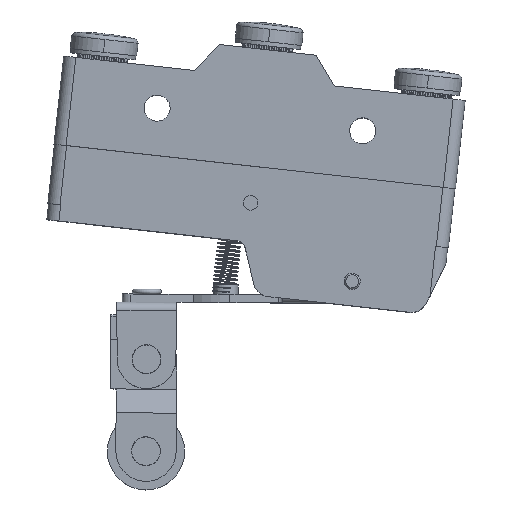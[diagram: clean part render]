
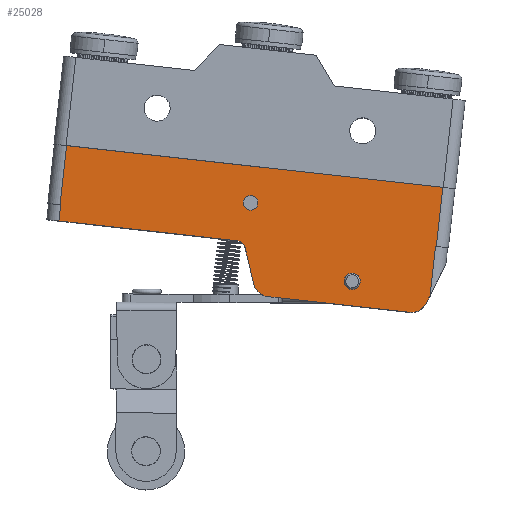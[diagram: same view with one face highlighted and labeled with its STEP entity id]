
A CAD part, top view. The second image highlights one B-rep face of the part: STEP entity #25028.
In plain terms, the highlighted planar face has unit normal (0, 0, 1).
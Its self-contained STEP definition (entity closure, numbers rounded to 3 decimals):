
#7971=CARTESIAN_POINT('',(101.775,-44.107,
-7.793));
#7972=DIRECTION('',(0.,0.,1.));
#7973=DIRECTION('',(-0.11,-0.994,0.));
#7974=AXIS2_PLACEMENT_3D('',#7971,#7972,#7973);
#7976=CARTESIAN_POINT('',(101.775,-44.107,
-7.793));
#7977=DIRECTION('',(0.,0.,1.));
#7978=DIRECTION('',(0.11,0.994,0.));
#7979=AXIS2_PLACEMENT_3D('',#7976,#7977,#7978);
#7981=CARTESIAN_POINT('',(89.31,-34.476,
-7.793));
#7982=DIRECTION('',(0.,0.,1.));
#7983=DIRECTION('',(-0.994,0.11,0.));
#7984=AXIS2_PLACEMENT_3D('',#7981,#7982,#7983);
#7986=CARTESIAN_POINT('',(89.31,-34.476,
-7.793));
#7987=DIRECTION('',(0.,0.,1.));
#7988=DIRECTION('',(0.994,-0.11,0.));
#7989=AXIS2_PLACEMENT_3D('',#7986,#7987,#7988);
#7991=CARTESIAN_POINT('',(112.055,-39.813,
-7.793));
#7992=CARTESIAN_POINT('',(112.048,-39.812,
-7.793));
#7993=CARTESIAN_POINT('',(112.033,-39.81,
-7.793));
#7994=CARTESIAN_POINT('',(112.018,-39.808,
-7.793));
#7995=CARTESIAN_POINT('',(112.011,-39.808,
-7.793));
#7997=DIRECTION('',(-0.11,-0.994,0.));
#7998=VECTOR('',#7997,6.121);
#7999=CARTESIAN_POINT('',(112.011,-39.808,
-7.793));
#8000=LINE('',#7999,#7998);
#8001=DIRECTION('',(-0.443,-0.896,0.));
#8002=VECTOR('',#8001,1.025);
#8003=CARTESIAN_POINT('',(111.337,-45.892,
-7.793));
#8004=LINE('',#8003,#8002);
#8005=CARTESIAN_POINT('',(109.09,-45.923,
-7.793));
#8006=DIRECTION('',(0.,0.,-1.));
#8007=DIRECTION('',(0.896,-0.443,0.));
#8008=AXIS2_PLACEMENT_3D('',#8005,#8006,#8007);
#8010=CARTESIAN_POINT('',(91.656,-43.992,
-7.793));
#8011=DIRECTION('',(0.,0.,-1.));
#8012=DIRECTION('',(-0.11,-0.994,0.));
#8013=AXIS2_PLACEMENT_3D('',#8010,#8011,#8012);
#8015=DIRECTION('',(-0.236,0.972,0.));
#8016=VECTOR('',#8015,4.71);
#8017=CARTESIAN_POINT('',(89.713,-44.465,
-7.793));
#8018=LINE('',#8017,#8016);
#8019=CARTESIAN_POINT('',(87.627,-40.125,
-7.793));
#8020=DIRECTION('',(0.,0.,1.));
#8021=DIRECTION('',(0.972,0.236,0.));
#8022=AXIS2_PLACEMENT_3D('',#8019,#8020,#8021);
#8024=DIRECTION('',(-0.994,0.11,0.));
#8025=VECTOR('',#8024,22.1);
#8026=CARTESIAN_POINT('',(87.737,-39.131,
-7.793));
#8027=LINE('',#8026,#8025);
#8028=CARTESIAN_POINT('',(65.992,-34.711,
-7.793));
#8029=CARTESIAN_POINT('',(65.985,-34.71,
-7.793));
#8030=CARTESIAN_POINT('',(65.97,-34.708,
-7.793));
#8031=CARTESIAN_POINT('',(65.955,-34.706,
-7.793));
#8032=CARTESIAN_POINT('',(65.947,-34.706,
-7.793));
#8034=CARTESIAN_POINT('',(65.947,-34.706,
-7.793));
#8035=CARTESIAN_POINT('',(65.94,-34.705,
-7.793));
#8036=CARTESIAN_POINT('',(65.925,-34.703,
-7.792));
#8037=CARTESIAN_POINT('',(65.91,-34.702,
-7.794));
#8038=CARTESIAN_POINT('',(65.903,-34.701,
-7.794));
#8040=DIRECTION('',(0.994,-0.11,0.));
#8041=VECTOR('',#8040,46.48);
#8042=CARTESIAN_POINT('',(66.706,-27.445,
-7.793));
#8043=LINE('',#8042,#8041);
#8044=CARTESIAN_POINT('',(112.1,-39.817,
-7.794));
#8045=CARTESIAN_POINT('',(112.093,-39.817,
-7.794));
#8046=CARTESIAN_POINT('',(112.078,-39.815,
-7.792));
#8047=CARTESIAN_POINT('',(112.063,-39.813,
-7.793));
#8048=CARTESIAN_POINT('',(112.055,-39.813,
-7.793));
#8127=CARTESIAN_POINT('',(111.337,-45.892,
-7.793));
#8408=DIRECTION('',(-0.11,-0.994,0.));
#8409=VECTOR('',#8408,2.);
#8410=CARTESIAN_POINT('',(65.992,-34.711,
-7.793));
#8411=LINE('',#8410,#8409);
#8442=DIRECTION('',(0.994,-0.11,0.));
#8443=VECTOR('',#8442,17.54);
#8444=CARTESIAN_POINT('',(91.436,-45.98,
-7.793));
#8445=LINE('',#8444,#8443);
#13416=DIRECTION('',(0.11,0.994,0.));
#13417=VECTOR('',#13416,7.3);
#13418=CARTESIAN_POINT('',(112.1,-39.817,
-7.794));
#13419=LINE('',#13418,#13417);
#13440=DIRECTION('',(-0.11,-0.994,0.));
#13441=VECTOR('',#13440,7.3);
#13442=CARTESIAN_POINT('',(66.706,-27.445,
-7.793));
#13443=LINE('',#13442,#13441);
#13540=CARTESIAN_POINT('',(66.706,-27.445,
-7.793));
#13541=CARTESIAN_POINT('',(112.904,-32.562,
-7.793));
#13542=VERTEX_POINT('',#13540);
#13543=VERTEX_POINT('',#13541);
#14044=CARTESIAN_POINT('',(88.415,-34.377,
-7.793));
#14045=CARTESIAN_POINT('',(90.204,-34.575,
-7.793));
#14046=VERTEX_POINT('',#14044);
#14047=VERTEX_POINT('',#14045);
#14085=CARTESIAN_POINT('',(87.737,-39.131,
-7.793));
#14087=VERTEX_POINT('',#14085);
#14102=CARTESIAN_POINT('',(65.772,-36.698,
-7.793));
#14103=VERTEX_POINT('',#14102);
#14122=VERTEX_POINT('',#8127);
#14123=CARTESIAN_POINT('',(110.883,-46.81,
-7.793));
#14125=VERTEX_POINT('',#14123);
#14127=CARTESIAN_POINT('',(101.665,-45.101,
-7.793));
#14128=CARTESIAN_POINT('',(101.885,-43.113,
-7.793));
#14129=VERTEX_POINT('',#14127);
#14130=VERTEX_POINT('',#14128);
#14131=CARTESIAN_POINT('',(108.87,-47.911,-7.793));
#14132=VERTEX_POINT('',#14131);
#14133=CARTESIAN_POINT('',(91.436,-45.98,
-7.793));
#14134=VERTEX_POINT('',#14133);
#14135=CARTESIAN_POINT('',(89.713,-44.465,
-7.793));
#14136=VERTEX_POINT('',#14135);
#14137=CARTESIAN_POINT('',(88.599,-39.889,
-7.793));
#14138=VERTEX_POINT('',#14137);
#15209=CARTESIAN_POINT('',(112.1,-39.817,
-7.796));
#15210=VERTEX_POINT('',#15209);
#15211=VERTEX_POINT('',#8048);
#15212=VERTEX_POINT('',#7995);
#15213=VERTEX_POINT('',#8028);
#15214=VERTEX_POINT('',#8032);
#15215=VERTEX_POINT('',#8038);
#24978=CARTESIAN_POINT('',(89.403,-33.631,
-7.793));
#24979=DIRECTION('',(0.,0.,1.));
#24980=DIRECTION('',(-0.994,0.11,0.));
#24981=AXIS2_PLACEMENT_3D('',#24978,#24979,#24980);
#24982=PLANE('',#24981);
#24984=ORIENTED_EDGE('',*,*,#24983,.T.);
#24986=ORIENTED_EDGE('',*,*,#24985,.T.);
#24988=ORIENTED_EDGE('',*,*,#24987,.T.);
#24990=ORIENTED_EDGE('',*,*,#24989,.T.);
#24992=ORIENTED_EDGE('',*,*,#24991,.F.);
#24994=ORIENTED_EDGE('',*,*,#24993,.T.);
#24996=ORIENTED_EDGE('',*,*,#24995,.T.);
#24998=ORIENTED_EDGE('',*,*,#24997,.T.);
#25000=ORIENTED_EDGE('',*,*,#24999,.T.);
#25002=ORIENTED_EDGE('',*,*,#25001,.F.);
#25004=ORIENTED_EDGE('',*,*,#25003,.T.);
#25006=ORIENTED_EDGE('',*,*,#25005,.T.);
#25008=ORIENTED_EDGE('',*,*,#25007,.F.);
#25009=ORIENTED_EDGE('',*,*,#19023,.T.);
#25011=ORIENTED_EDGE('',*,*,#25010,.F.);
#25013=ORIENTED_EDGE('',*,*,#25012,.T.);
#25014=EDGE_LOOP('',(#24984,#24986,#24988,#24990,#24992,#24994,#24996,#24998,
#25000,#25002,#25004,#25006,#25008,#25009,#25011,#25013));
#25015=FACE_OUTER_BOUND('',#25014,.F.);
#25017=ORIENTED_EDGE('',*,*,#25016,.T.);
#25019=ORIENTED_EDGE('',*,*,#25018,.T.);
#25020=EDGE_LOOP('',(#25017,#25019));
#25021=FACE_BOUND('',#25020,.F.);
#25023=ORIENTED_EDGE('',*,*,#25022,.T.);
#25025=ORIENTED_EDGE('',*,*,#25024,.T.);
#25026=EDGE_LOOP('',(#25023,#25025));
#25027=FACE_BOUND('',#25026,.F.);
#25028=ADVANCED_FACE('',(#25015,#25021,#25027),#24982,.T.);
#7975=CIRCLE('',#7974,1.);
#7980=CIRCLE('',#7979,1.);
#7985=CIRCLE('',#7984,0.9);
#7990=CIRCLE('',#7989,0.9);
#7996=B_SPLINE_CURVE_WITH_KNOTS('',3,(#7991,#7992,#7993,#7994,#7995),
.UNSPECIFIED.,.F.,.F.,(4,1,4),(0.,0.5,1.),.UNSPECIFIED.);
#8009=CIRCLE('',#8008,2.);
#8014=CIRCLE('',#8013,2.);
#8023=CIRCLE('',#8022,1.);
#8033=B_SPLINE_CURVE_WITH_KNOTS('',3,(#8028,#8029,#8030,#8031,#8032),
.UNSPECIFIED.,.F.,.F.,(4,1,4),(0.,0.5,1.),.UNSPECIFIED.);
#8039=B_SPLINE_CURVE_WITH_KNOTS('',3,(#8034,#8035,#8036,#8037,#8038),
.UNSPECIFIED.,.F.,.F.,(4,1,4),(0.,0.5,1.),.UNSPECIFIED.);
#8049=B_SPLINE_CURVE_WITH_KNOTS('',3,(#8044,#8045,#8046,#8047,#8048),
.UNSPECIFIED.,.F.,.F.,(4,1,4),(0.,0.5,1.),.UNSPECIFIED.);
#19023=EDGE_CURVE('',#13542,#13543,#8043,.T.);
#24983=EDGE_CURVE('',#15211,#15212,#7996,.T.);
#24985=EDGE_CURVE('',#15212,#14122,#8000,.T.);
#24987=EDGE_CURVE('',#14122,#14125,#8004,.T.);
#24989=EDGE_CURVE('',#14125,#14132,#8009,.T.);
#24991=EDGE_CURVE('',#14134,#14132,#8445,.T.);
#24993=EDGE_CURVE('',#14134,#14136,#8014,.T.);
#24995=EDGE_CURVE('',#14136,#14138,#8018,.T.);
#24997=EDGE_CURVE('',#14138,#14087,#8023,.T.);
#24999=EDGE_CURVE('',#14087,#14103,#8027,.T.);
#25001=EDGE_CURVE('',#15213,#14103,#8411,.T.);
#25003=EDGE_CURVE('',#15213,#15214,#8033,.T.);
#25005=EDGE_CURVE('',#15214,#15215,#8039,.T.);
#25007=EDGE_CURVE('',#13542,#15215,#13443,.T.);
#25010=EDGE_CURVE('',#15210,#13543,#13419,.T.);
#25012=EDGE_CURVE('',#15210,#15211,#8049,.T.);
#25016=EDGE_CURVE('',#14046,#14047,#7985,.T.);
#25018=EDGE_CURVE('',#14047,#14046,#7990,.T.);
#25022=EDGE_CURVE('',#14129,#14130,#7975,.T.);
#25024=EDGE_CURVE('',#14130,#14129,#7980,.T.);
